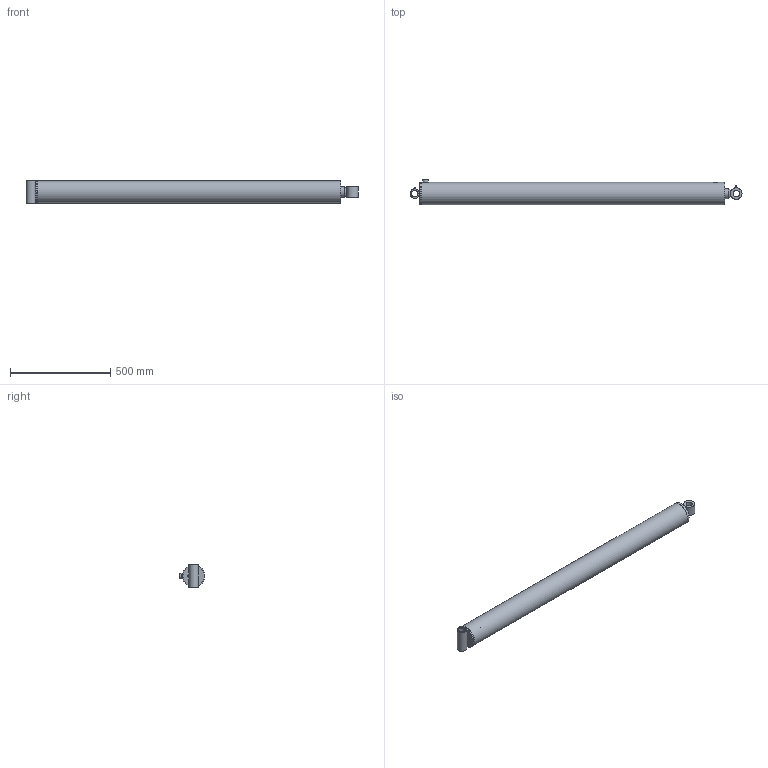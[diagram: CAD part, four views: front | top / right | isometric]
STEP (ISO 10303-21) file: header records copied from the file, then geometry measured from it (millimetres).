
FILE_DESCRIPTION(/* description */ (''),/* implementation_level */ '2;1');
FILE_NAME(/* name */ '\\SRVR-ENG\EngSales\Cylinders\PMC-5654.stp',/* time_stamp */ '2014-03-03T10:20:47-06:00',/* author */ ('KneiflD'),/* organization */ ('PRINCE MANUFACTURING'),/* preprocessor_version */ 'ST-DEVELOPER v15.2',/* originating_system */ 'Autodesk Inventor 2014',/* authorisation */ '0 in^3');
FILE_SCHEMA (('AUTOMOTIVE_DESIGN { 1 0 10303 214 3 1 1 }'));
Length unit declared in the file: inch
Products named in the file (17): 051900068; 161900081V; 200014404V; 210600086V; 061900046; 011100881; 210600347V; 021100311; 071900019; 081900451V; 220000212V; 230001400V; 200018003V; 270010002V; 270010020V; 250001329V; PMC-5654
Bounding box: 1652.57 x 127 x 114.3 mm (x, y, z)
Volume: 6386291.4 mm3; surface area: 1444851.5 mm2
Topology: 15 solids, 15 shells, 229 faces, 457 edges, 275 vertices
Faces by surface type: plane 96, cylinder 55, cone 35, torus 34, bspline 7, sphere 2
Full cylindrical faces by diameter (mm): 1.524 x2, 3.175 x2, 6.074 x1, 8.839 x2, 9.08 x1, 12.7 x1, 17.462 x1, 17.475 x1, 23.812 x1, 28.575 x1, 29.972 x1, 31.699 x1, 31.826 x1, 32.258 x1, 32.385 x1, 34.315 x1, 47.625 x1, 50.8 x2, 50.876 x2, 54.61 x1, 57.15 x1, 58.725 x2, 60.325 x1, 60.452 x1, 63.5 x1, 80.95 x1, 91.592 x1, 92.151 x1, 92.964 x1, 95.25 x1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
Entity records: 6070 total; most frequent: CARTESIAN_POINT 1820, DIRECTION 899, ORIENTED_EDGE 606, AXIS2_PLACEMENT_3D 417, EDGE_LOOP 368, EDGE_CURVE 303, VERTEX_POINT 245, ADVANCED_FACE 212
